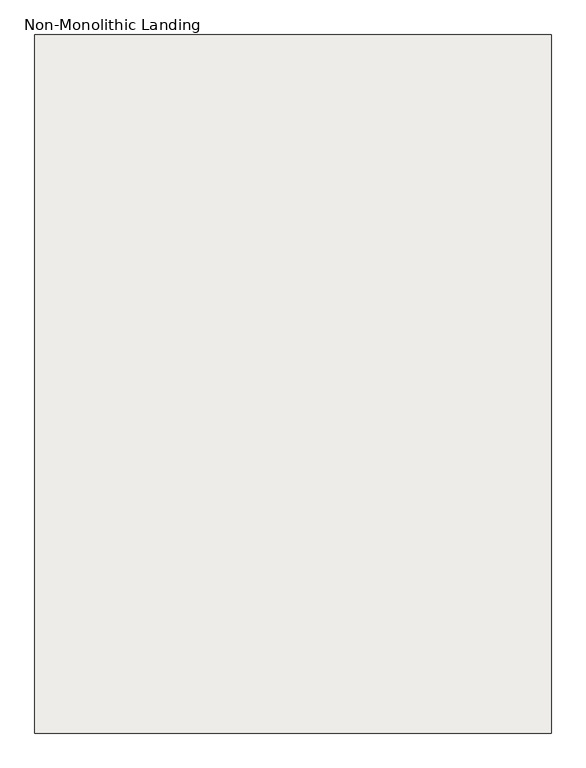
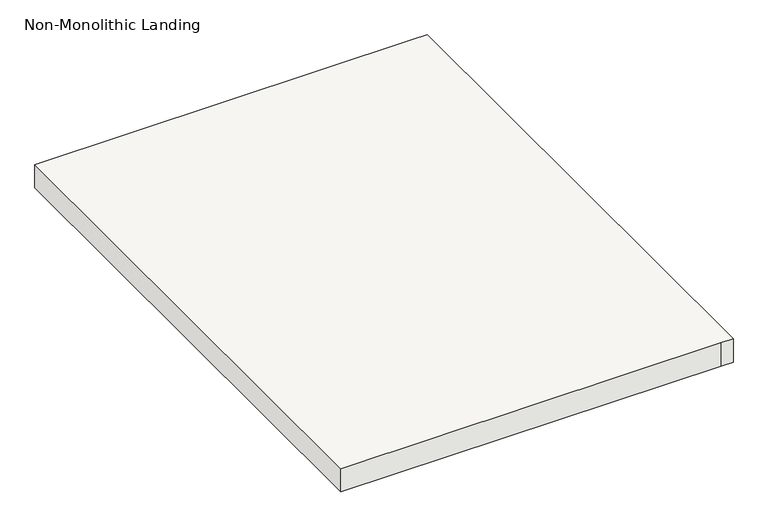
"""IFC4 building model written with IfcOpenShell, lengths in millimetres: slab geometry, Non-Monolithic Landing."""

from ifc_helpers import new_model, si_unit, frame, origin, place, context, project, spatial, polyline, outline, extrude, source, transform, mapped, element, save


def non_monolithic_landing_64b571ac(model_context):
    return source(origin(), model_context, "Body", "SweptSolid", [
        extrude(outline(polyline([(-10775.6813244, -17453.1578387), (-9988.2813244, -17453.1578387), (-9962.8813244, -17453.1578387), (-9962.8813244, -18551.5554387), (-9988.2813244, -18551.5554387), (-10775.6813244, -18551.5554387), (-10775.6813244, -17453.1578387)])), frame((0.0, 0.0, 1690.9142857), z_axis=(0.0, 0.0, 1.0), x_axis=(1.0, 0.0, 0.0)), (0.0, 0.0, 1.0), 50.8),
    ])


if __name__ == "__main__":
    model = new_model("IFC4")
    model_context = context("Model", 3, world=origin())
    ifc_project = project(units=[si_unit("LENGTHUNIT", "METRE", prefix="MILLI")], contexts=[model_context])
    site = spatial("IfcSite", under=ifc_project)
    building = spatial("IfcBuilding", under=site)
    placement = place(None, origin())
    non_monolithic_landing_shape = non_monolithic_landing_64b571ac(model_context)
    element("IfcSlab", 1, ObjectType="Non-Monolithic Landing", at=placement, inside=building, context=model_context, shape_type="MappedRepresentation", body=[
        mapped(non_monolithic_landing_shape, transform((0.0, 0.0, 0.0), x_axis=(1.0, 0.0, 0.0), y_axis=(0.0, 1.0, 0.0), z_axis=(0.0, 0.0, 1.0))),
    ])
    save(model, "model.ifc")
